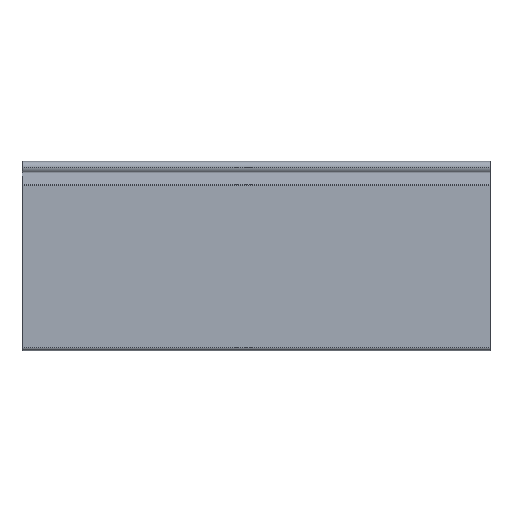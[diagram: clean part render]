
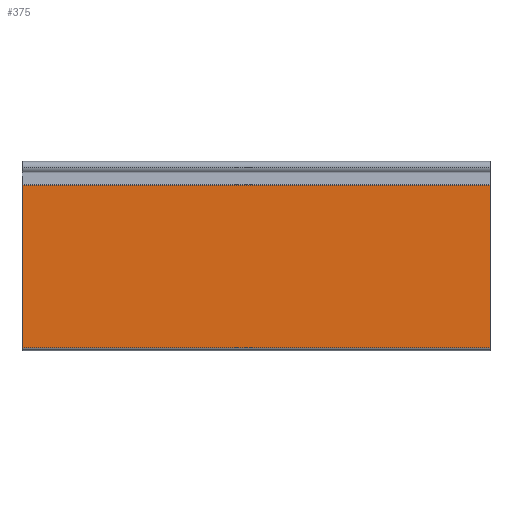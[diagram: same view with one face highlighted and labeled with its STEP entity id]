
A CAD part, top view. The second image highlights one B-rep face of the part: STEP entity #375.
In plain terms, the highlighted planar face has unit normal (0, 0, 1).
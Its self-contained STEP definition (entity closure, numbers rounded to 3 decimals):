
#57 = CARTESIAN_POINT ( 'NONE',  ( -158., -12.164, 4.05 ) ) ;
#58 = DIRECTION ( 'NONE',  ( 0., -1., 0. ) ) ;
#275 = CARTESIAN_POINT ( 'NONE',  ( 158., -12.164, 4.05 ) ) ;
#282 = CARTESIAN_POINT ( 'NONE',  ( 158., -121.663, 4.05 ) ) ;
#283 = DIRECTION ( 'NONE',  ( -1., 0., 0. ) ) ;
#285 = DIRECTION ( 'NONE',  ( -1., 0., 0. ) ) ;
#304 = CARTESIAN_POINT ( 'NONE',  ( -158., -121.663, 4.05 ) ) ;
#316 = CARTESIAN_POINT ( 'NONE',  ( -158., -12.164, 4.05 ) ) ;
#341 = CARTESIAN_POINT ( 'NONE',  ( 158., -12.164, 4.05 ) ) ;
#348 = CARTESIAN_POINT ( 'NONE',  ( 158., -121.663, 4.05 ) ) ;
#375 = ADVANCED_FACE ( 'NONE', ( #1184 ), #1143, .F. ) ;
#392 = EDGE_CURVE ( 'NONE', #681, #656, #1186, .T. ) ;
#393 = EDGE_CURVE ( 'NONE', #688, #588, #1195, .T. ) ;
#425 = AXIS2_PLACEMENT_3D ( 'NONE', #1142, #1145, #1146 ) ;
#466 = LINE ( 'NONE', #1325, #467 ) ;
#467 = VECTOR ( 'NONE', #1326, 1000. ) ;
#483 = LINE ( 'NONE', #57, #486 ) ;
#486 = VECTOR ( 'NONE', #58, 1000. ) ;
#588 = VERTEX_POINT ( 'NONE', #304 ) ;
#632 = EDGE_LOOP ( 'NONE', ( #1074, #1073, #1072, #1254 ) ) ;
#656 = VERTEX_POINT ( 'NONE', #316 ) ;
#681 = VERTEX_POINT ( 'NONE', #341 ) ;
#688 = VERTEX_POINT ( 'NONE', #348 ) ;
#855 = EDGE_CURVE ( 'NONE', #681, #688, #466, .T. ) ;
#870 = EDGE_CURVE ( 'NONE', #656, #588, #483, .T. ) ;
#1072 = ORIENTED_EDGE ( 'NONE', *, *, #855, .F. ) ;
#1073 = ORIENTED_EDGE ( 'NONE', *, *, #393, .F. ) ;
#1074 = ORIENTED_EDGE ( 'NONE', *, *, #870, .T. ) ;
#1142 = CARTESIAN_POINT ( 'NONE',  ( 158., -12.164, 4.05 ) ) ;
#1143 = PLANE ( 'NONE',  #425 ) ;
#1145 = DIRECTION ( 'NONE',  ( 0., 0., -1. ) ) ;
#1146 = DIRECTION ( 'NONE',  ( 0., 1., 0. ) ) ;
#1184 = FACE_OUTER_BOUND ( 'NONE', #632, .T. ) ;
#1186 = LINE ( 'NONE', #275, #1212 ) ;
#1195 = LINE ( 'NONE', #282, #1214 ) ;
#1212 = VECTOR ( 'NONE', #283, 1000. ) ;
#1214 = VECTOR ( 'NONE', #285, 1000. ) ;
#1254 = ORIENTED_EDGE ( 'NONE', *, *, #392, .T. ) ;
#1325 = CARTESIAN_POINT ( 'NONE',  ( 158., -12.164, 4.05 ) ) ;
#1326 = DIRECTION ( 'NONE',  ( 0., -1., 0. ) ) ;
